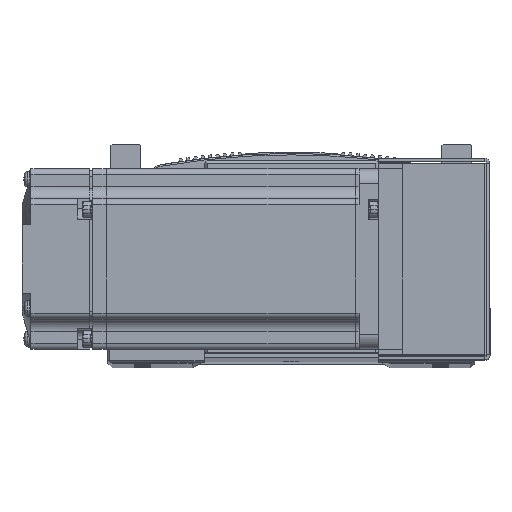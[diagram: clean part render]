
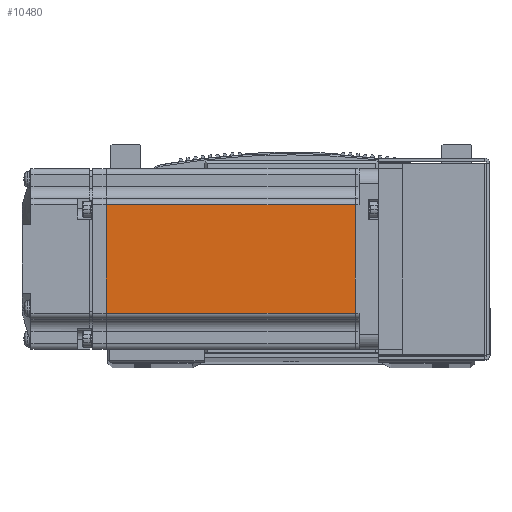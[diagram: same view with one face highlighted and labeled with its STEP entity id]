
A CAD part, top view. The second image highlights one B-rep face of the part: STEP entity #10480.
In plain terms, the highlighted planar face has unit normal (0, 0, 1) as drawn and (0, 1, 0) by its records, which use the part's own axes.
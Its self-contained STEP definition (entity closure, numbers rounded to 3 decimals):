
#1347 = VERTEX_POINT ( 'NONE', #84992 ) ;
#1357 = VERTEX_POINT ( 'NONE', #85018 ) ;
#2327 = EDGE_LOOP ( 'NONE', ( #88302, #88316, #88314, #88298 ) ) ;
#5171 = VECTOR ( 'NONE', #6337, 1000. ) ;
#5210 = LINE ( 'NONE', #6299, #5171 ) ;
#5267 = LINE ( 'NONE', #6417, #5321 ) ;
#5281 = VECTOR ( 'NONE', #6458, 1000. ) ;
#5306 = LINE ( 'NONE', #6449, #5281 ) ;
#5309 = VECTOR ( 'NONE', #6430, 1000. ) ;
#5321 = VECTOR ( 'NONE', #6406, 1000. ) ;
#5343 = LINE ( 'NONE', #6455, #5309 ) ;
#6299 = CARTESIAN_POINT ( 'NONE',  ( -6.5, 30., 18. ) ) ;
#6337 = DIRECTION ( 'NONE',  ( 1., 0., 0. ) ) ;
#6406 = DIRECTION ( 'NONE',  ( -1., 0., 0. ) ) ;
#6417 = CARTESIAN_POINT ( 'NONE',  ( -6.5, 30., -18. ) ) ;
#6430 = DIRECTION ( 'NONE',  ( 0., 0., 1. ) ) ;
#6449 = CARTESIAN_POINT ( 'NONE',  ( -7.75, 30., 0. ) ) ;
#6455 = CARTESIAN_POINT ( 'NONE',  ( -90.45, 30., 0. ) ) ;
#6458 = DIRECTION ( 'NONE',  ( 0., 0., 1. ) ) ;
#10480 = ADVANCED_FACE ( 'NONE', ( #36280 ), #77187, .T. ) ;
#15965 = VERTEX_POINT ( 'NONE', #54672 ) ;
#15990 = VERTEX_POINT ( 'NONE', #54711 ) ;
#36280 = FACE_OUTER_BOUND ( 'NONE', #2327, .T. ) ;
#54672 = CARTESIAN_POINT ( 'NONE',  ( -7.75, 30., -18. ) ) ;
#54711 = CARTESIAN_POINT ( 'NONE',  ( -90.45, 30., -18. ) ) ;
#61039 = AXIS2_PLACEMENT_3D ( 'NONE', #77192, #77188, #77179 ) ;
#71716 = EDGE_CURVE ( 'NONE', #1347, #1357, #5210, .T. ) ;
#71744 = EDGE_CURVE ( 'NONE', #15965, #15990, #5267, .T. ) ;
#71759 = EDGE_CURVE ( 'NONE', #15965, #1357, #5306, .T. ) ;
#71763 = EDGE_CURVE ( 'NONE', #15990, #1347, #5343, .T. ) ;
#77179 = DIRECTION ( 'NONE',  ( 0., 0., 1. ) ) ;
#77187 = PLANE ( 'NONE',  #61039 ) ;
#77188 = DIRECTION ( 'NONE',  ( 0., 1., 0. ) ) ;
#77192 = CARTESIAN_POINT ( 'NONE',  ( -6.5, 30., 25. ) ) ;
#84992 = CARTESIAN_POINT ( 'NONE',  ( -90.45, 30., 18. ) ) ;
#85018 = CARTESIAN_POINT ( 'NONE',  ( -7.75, 30., 18. ) ) ;
#88298 = ORIENTED_EDGE ( 'NONE', *, *, #71716, .T. ) ;
#88302 = ORIENTED_EDGE ( 'NONE', *, *, #71759, .F. ) ;
#88314 = ORIENTED_EDGE ( 'NONE', *, *, #71763, .T. ) ;
#88316 = ORIENTED_EDGE ( 'NONE', *, *, #71744, .T. ) ;
